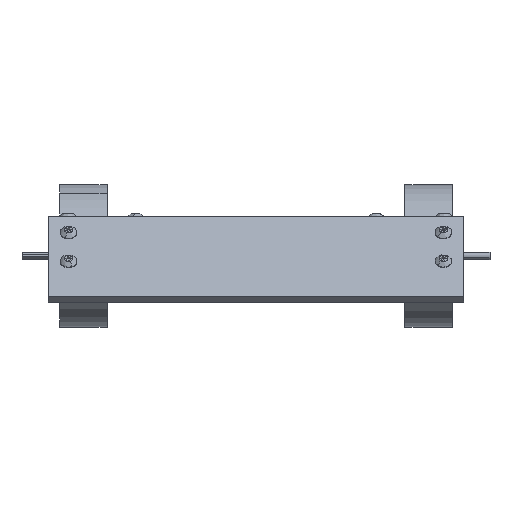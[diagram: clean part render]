
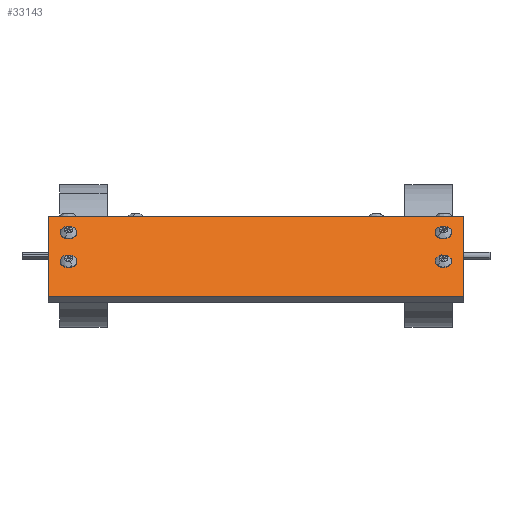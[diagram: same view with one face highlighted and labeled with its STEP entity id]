
A CAD part, top view. The second image highlights one B-rep face of the part: STEP entity #33143.
In plain terms, the highlighted planar face has unit normal (0, 0.688, 0.726) as drawn and (0, 1, 0) by its records, which use the part's own axes.
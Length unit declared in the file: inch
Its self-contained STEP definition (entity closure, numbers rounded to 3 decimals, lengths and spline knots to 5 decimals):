
#283 = CARTESIAN_POINT ( 'NONE',  ( -3.2725, 0.11811, -0.875 ) ) ;
#325 = VECTOR ( 'NONE', #48755, 39.37008 ) ;
#352 = LINE ( 'NONE', #26183, #9948 ) ;
#567 = VECTOR ( 'NONE', #45779, 39.37008 ) ;
#1341 = CIRCLE ( 'NONE', #8026, 0.09375 ) ;
#1886 = DIRECTION ( 'NONE',  ( 0., 1., 0. ) ) ;
#2304 = PLANE ( 'NONE',  #9363 ) ;
#2739 = EDGE_CURVE ( 'NONE', #47596, #45701, #25668, .T. ) ;
#3343 = VERTEX_POINT ( 'NONE', #18237 ) ;
#3456 = EDGE_LOOP ( 'NONE', ( #39769, #20767 ) ) ;
#5786 = DIRECTION ( 'NONE',  ( 1., 0., 0. ) ) ;
#6058 = DIRECTION ( 'NONE',  ( 0., 1., 0. ) ) ;
#7159 = ORIENTED_EDGE ( 'NONE', *, *, #11454, .F. ) ;
#7614 = VECTOR ( 'NONE', #26263, 39.37008 ) ;
#7752 = AXIS2_PLACEMENT_3D ( 'NONE', #18648, #47259, #22664 ) ;
#8026 = AXIS2_PLACEMENT_3D ( 'NONE', #37964, #13465, #42096 ) ;
#8907 = LINE ( 'NONE', #46674, #7614 ) ;
#9363 = AXIS2_PLACEMENT_3D ( 'NONE', #14649, #43269, #18785 ) ;
#9948 = VECTOR ( 'NONE', #5786, 39.37008 ) ;
#10598 = AXIS2_PLACEMENT_3D ( 'NONE', #36932, #12426, #41056 ) ;
#10619 = AXIS2_PLACEMENT_3D ( 'NONE', #30563, #6058, #34643 ) ;
#11447 = LINE ( 'NONE', #41650, #567 ) ;
#11454 = EDGE_CURVE ( 'NONE', #25822, #45009, #45466, .T. ) ;
#11700 = VERTEX_POINT ( 'NONE', #31066 ) ;
#12328 = EDGE_CURVE ( 'NONE', #50054, #26908, #36917, .T. ) ;
#12426 = DIRECTION ( 'NONE',  ( 0., 1., 0. ) ) ;
#13465 = DIRECTION ( 'NONE',  ( 0., 1., 0. ) ) ;
#14535 = EDGE_LOOP ( 'NONE', ( #18440, #40770, #31779, #40835 ) ) ;
#14649 = CARTESIAN_POINT ( 'NONE',  ( 0., 0.11811, 0. ) ) ;
#15529 = CIRCLE ( 'NONE', #38345, 0.09375 ) ;
#15566 = FACE_BOUND ( 'NONE', #42041, .T. ) ;
#16764 = ORIENTED_EDGE ( 'NONE', *, *, #42712, .F. ) ;
#17397 = CARTESIAN_POINT ( 'NONE',  ( -2.9535, 0.11811, 0.11049 ) ) ;
#17842 = EDGE_CURVE ( 'NONE', #19060, #50871, #43649, .T. ) ;
#18237 = CARTESIAN_POINT ( 'NONE',  ( -3.2725, 0.11811, 0.875 ) ) ;
#18440 = ORIENTED_EDGE ( 'NONE', *, *, #27678, .T. ) ;
#18648 = CARTESIAN_POINT ( 'NONE',  ( 2.9535, 0.11811, -0.51451 ) ) ;
#18785 = DIRECTION ( 'NONE',  ( 0., 0., 1. ) ) ;
#19060 = VERTEX_POINT ( 'NONE', #35329 ) ;
#19495 = EDGE_CURVE ( 'NONE', #3343, #11700, #352, .T. ) ;
#20275 = CARTESIAN_POINT ( 'NONE',  ( -2.9535, 0.11811, -0.60826 ) ) ;
#20643 = CARTESIAN_POINT ( 'NONE',  ( -2.9535, 0.11811, -0.51451 ) ) ;
#20767 = ORIENTED_EDGE ( 'NONE', *, *, #2739, .F. ) ;
#21009 = CARTESIAN_POINT ( 'NONE',  ( -2.9535, 0.11811, -0.51451 ) ) ;
#21421 = DIRECTION ( 'NONE',  ( 0., 0., 1. ) ) ;
#21915 = ORIENTED_EDGE ( 'NONE', *, *, #30741, .F. ) ;
#22039 = LINE ( 'NONE', #40467, #325 ) ;
#22664 = DIRECTION ( 'NONE',  ( 0., 0., 1. ) ) ;
#24744 = DIRECTION ( 'NONE',  ( 0., 0., 1. ) ) ;
#25137 = DIRECTION ( 'NONE',  ( 0., 0., 1. ) ) ;
#25156 = FACE_OUTER_BOUND ( 'NONE', #14535, .T. ) ;
#25668 = CIRCLE ( 'NONE', #7752, 0.09375 ) ;
#25721 = AXIS2_PLACEMENT_3D ( 'NONE', #20643, #49334, #24744 ) ;
#25822 = VERTEX_POINT ( 'NONE', #32832 ) ;
#26183 = CARTESIAN_POINT ( 'NONE',  ( -3.2725, 0.11811, 0.875 ) ) ;
#26263 = DIRECTION ( 'NONE',  ( 0., 0., 1. ) ) ;
#26392 = CARTESIAN_POINT ( 'NONE',  ( 2.9535, 0.11811, 0.11049 ) ) ;
#26908 = VERTEX_POINT ( 'NONE', #20275 ) ;
#27678 = EDGE_CURVE ( 'NONE', #11700, #38880, #11447, .T. ) ;
#28754 = CIRCLE ( 'NONE', #10619, 0.09375 ) ;
#29201 = AXIS2_PLACEMENT_3D ( 'NONE', #26392, #1886, #30499 ) ;
#30499 = DIRECTION ( 'NONE',  ( 0., 0., 1. ) ) ;
#30563 = CARTESIAN_POINT ( 'NONE',  ( -2.9535, 0.11811, 0.11049 ) ) ;
#30741 = EDGE_CURVE ( 'NONE', #45009, #25822, #28754, .T. ) ;
#31066 = CARTESIAN_POINT ( 'NONE',  ( 3.2725, 0.11811, 0.875 ) ) ;
#31779 = ORIENTED_EDGE ( 'NONE', *, *, #46590, .T. ) ;
#31958 = EDGE_CURVE ( 'NONE', #50871, #19060, #35563, .T. ) ;
#32832 = CARTESIAN_POINT ( 'NONE',  ( -2.9535, 0.11811, 0.01674 ) ) ;
#33143 = ADVANCED_FACE ( 'NONE', ( #36024, #37296, #15566, #46937, #25156 ), #2304, .T. ) ;
#33896 = EDGE_CURVE ( 'NONE', #45701, #47596, #1341, .T. ) ;
#34643 = DIRECTION ( 'NONE',  ( 0., 0., 1. ) ) ;
#35329 = CARTESIAN_POINT ( 'NONE',  ( 2.9535, 0.11811, 0.01674 ) ) ;
#35563 = CIRCLE ( 'NONE', #29201, 0.09375 ) ;
#36024 = FACE_BOUND ( 'NONE', #3456, .T. ) ;
#36917 = CIRCLE ( 'NONE', #25721, 0.09375 ) ;
#36932 = CARTESIAN_POINT ( 'NONE',  ( 2.9535, 0.11811, 0.11049 ) ) ;
#37295 = AXIS2_PLACEMENT_3D ( 'NONE', #17397, #45987, #21421 ) ;
#37296 = FACE_BOUND ( 'NONE', #39614, .T. ) ;
#37964 = CARTESIAN_POINT ( 'NONE',  ( 2.9535, 0.11811, -0.51451 ) ) ;
#38345 = AXIS2_PLACEMENT_3D ( 'NONE', #21009, #49719, #25137 ) ;
#38816 = CARTESIAN_POINT ( 'NONE',  ( -2.9535, 0.11811, -0.42076 ) ) ;
#38880 = VERTEX_POINT ( 'NONE', #49605 ) ;
#39437 = ORIENTED_EDGE ( 'NONE', *, *, #12328, .F. ) ;
#39614 = EDGE_LOOP ( 'NONE', ( #42643, #51866 ) ) ;
#39769 = ORIENTED_EDGE ( 'NONE', *, *, #33896, .F. ) ;
#40138 = EDGE_LOOP ( 'NONE', ( #39437, #16764 ) ) ;
#40467 = CARTESIAN_POINT ( 'NONE',  ( -3.2725, 0.11811, -0.875 ) ) ;
#40541 = CARTESIAN_POINT ( 'NONE',  ( 2.9535, 0.11811, 0.20424 ) ) ;
#40770 = ORIENTED_EDGE ( 'NONE', *, *, #41524, .T. ) ;
#40835 = ORIENTED_EDGE ( 'NONE', *, *, #19495, .T. ) ;
#41056 = DIRECTION ( 'NONE',  ( 0., 0., 1. ) ) ;
#41524 = EDGE_CURVE ( 'NONE', #38880, #50938, #22039, .T. ) ;
#41650 = CARTESIAN_POINT ( 'NONE',  ( 3.2725, 0.11811, -0.875 ) ) ;
#42041 = EDGE_LOOP ( 'NONE', ( #21915, #7159 ) ) ;
#42096 = DIRECTION ( 'NONE',  ( 0., 0., 1. ) ) ;
#42643 = ORIENTED_EDGE ( 'NONE', *, *, #31958, .F. ) ;
#42712 = EDGE_CURVE ( 'NONE', #26908, #50054, #15529, .T. ) ;
#43269 = DIRECTION ( 'NONE',  ( 0., 1., 0. ) ) ;
#43649 = CIRCLE ( 'NONE', #10598, 0.09375 ) ;
#44836 = CARTESIAN_POINT ( 'NONE',  ( -2.9535, 0.11811, 0.20424 ) ) ;
#45009 = VERTEX_POINT ( 'NONE', #44836 ) ;
#45466 = CIRCLE ( 'NONE', #37295, 0.09375 ) ;
#45500 = CARTESIAN_POINT ( 'NONE',  ( 2.9535, 0.11811, -0.42076 ) ) ;
#45701 = VERTEX_POINT ( 'NONE', #45500 ) ;
#45779 = DIRECTION ( 'NONE',  ( 0., 0., -1. ) ) ;
#45987 = DIRECTION ( 'NONE',  ( 0., 1., 0. ) ) ;
#46590 = EDGE_CURVE ( 'NONE', #50938, #3343, #8907, .T. ) ;
#46674 = CARTESIAN_POINT ( 'NONE',  ( -3.2725, 0.11811, -0.875 ) ) ;
#46937 = FACE_BOUND ( 'NONE', #40138, .T. ) ;
#47259 = DIRECTION ( 'NONE',  ( 0., 1., 0. ) ) ;
#47596 = VERTEX_POINT ( 'NONE', #51203 ) ;
#48755 = DIRECTION ( 'NONE',  ( -1., 0., 0. ) ) ;
#49334 = DIRECTION ( 'NONE',  ( 0., 1., 0. ) ) ;
#49605 = CARTESIAN_POINT ( 'NONE',  ( 3.2725, 0.11811, -0.875 ) ) ;
#49719 = DIRECTION ( 'NONE',  ( 0., 1., 0. ) ) ;
#50054 = VERTEX_POINT ( 'NONE', #38816 ) ;
#50871 = VERTEX_POINT ( 'NONE', #40541 ) ;
#50938 = VERTEX_POINT ( 'NONE', #283 ) ;
#51203 = CARTESIAN_POINT ( 'NONE',  ( 2.9535, 0.11811, -0.60826 ) ) ;
#51866 = ORIENTED_EDGE ( 'NONE', *, *, #17842, .F. ) ;
